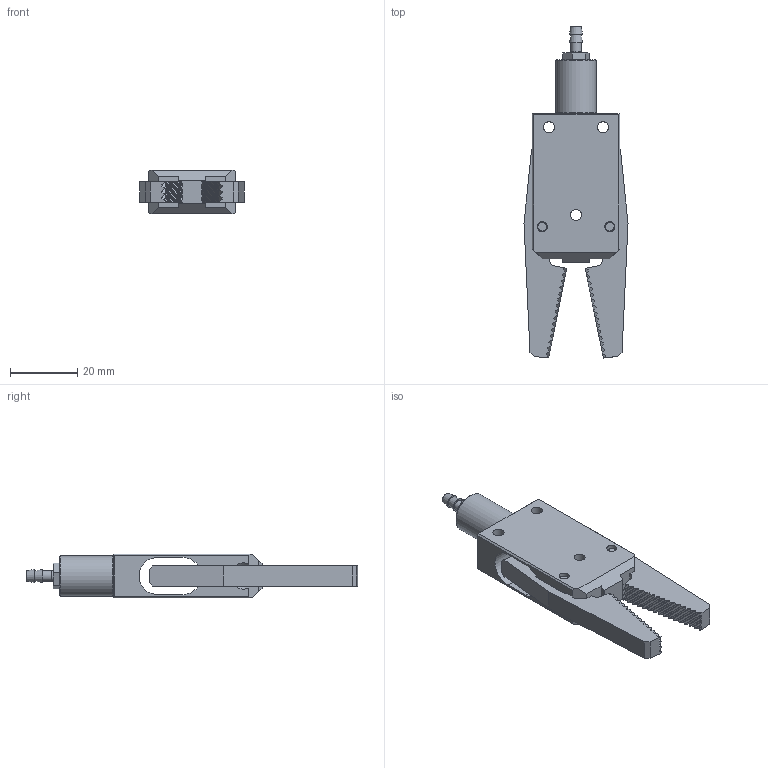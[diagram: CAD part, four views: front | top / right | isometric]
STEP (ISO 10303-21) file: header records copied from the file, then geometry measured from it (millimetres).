
FILE_DESCRIPTION(/* description */ (''),/* implementation_level */ '2;1');
FILE_NAME(/* name */ 'GRM12B.stp',/* time_stamp */ '2023-03-08T10:08:02+08:00',/* author */ (''),/* organization */ (''),/* preprocessor_version */ 'ST-DEVELOPER v16',/* originating_system */ 'SIEMENS PLM Software NX 10.0',/* authorisation */ '');
FILE_SCHEMA (('AUTOMOTIVE_DESIGN { 1 0 10303 214 3 1 1 1 }'));
Length unit declared in the file: millimetre
Products named in the file (1): Admi115498B06icv
Bounding box: 30.84 x 98.4 x 13 mm (x, y, z)
Volume: 15356.2 mm3; surface area: 8960.8 mm2
Topology: 1 solids, 1 shells, 268 faces, 766 edges, 509 vertices
Faces by surface type: plane 232, cylinder 22, cone 12, bspline 2
Full cylindrical faces by diameter (mm): 3 x5, 3.086 x1, 3.3 x3, 12 x1
Entity records: 10657 total; most frequent: CARTESIAN_POINT 1838, ORIENTED_EDGE 1482, DIRECTION 1315, EDGE_CURVE 741, LINE 653, VECTOR 653, VERTEX_POINT 502, AXIS2_PLACEMENT_3D 331
